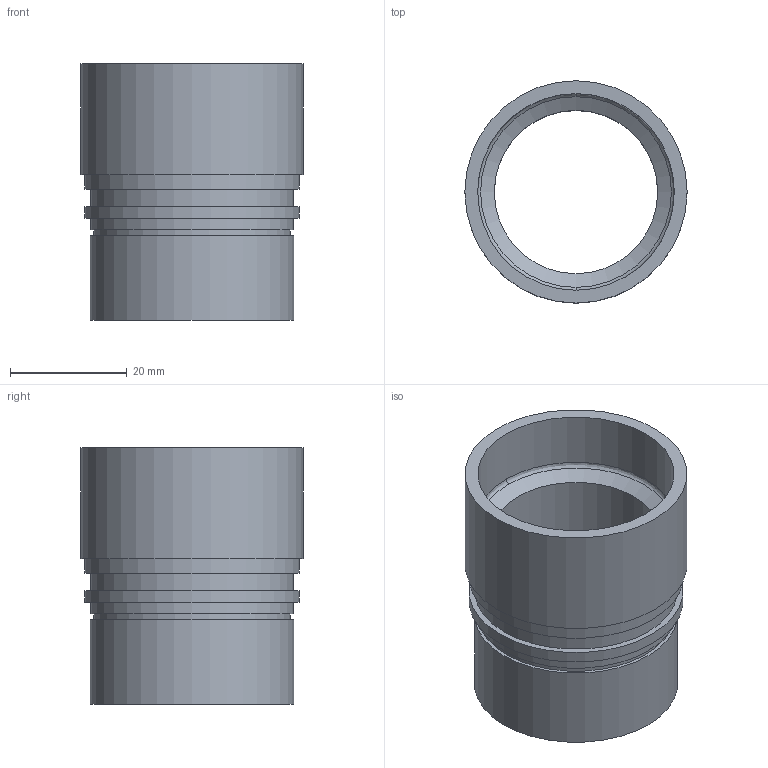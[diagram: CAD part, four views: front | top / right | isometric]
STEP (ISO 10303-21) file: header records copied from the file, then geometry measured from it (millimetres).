
FILE_DESCRIPTION (( 'STEP AP203' ), '1' );
FILE_NAME ('70-31.8R38.1-PH.STEP', '2013-09-19T10:49:09', ( '' ), ( '' ), 'SwSTEP 2.0', 'SolidWorks 2012', '' );
FILE_SCHEMA (( 'CONFIG_CONTROL_DESIGN' ));
Length unit declared in the file: millimetre
Products named in the file (1): 70-31.8R38.1-PH
Bounding box: 38.1 x 38.1 x 44 mm (x, y, z)
Volume: 14187.5 mm3; surface area: 10484.9 mm2
Topology: 1 solids, 1 shells, 22 faces, 38 edges, 25 vertices
Faces by surface type: cylinder 10, plane 9, bspline 2, cone 1
Full cylindrical faces by diameter (mm): 28 x1, 31.8 x1, 33.7 x1, 33.75 x1, 34.8 x2, 34.9 x1, 36.8 x2, 38.1 x1
Entity records: 567 total; most frequent: CARTESIAN_POINT 107, DIRECTION 88, ORIENTED_EDGE 50, AXIS2_PLACEMENT_3D 44, EDGE_LOOP 42, FACE_OUTER_BOUND 32, EDGE_CURVE 25, VERTEX_POINT 23
